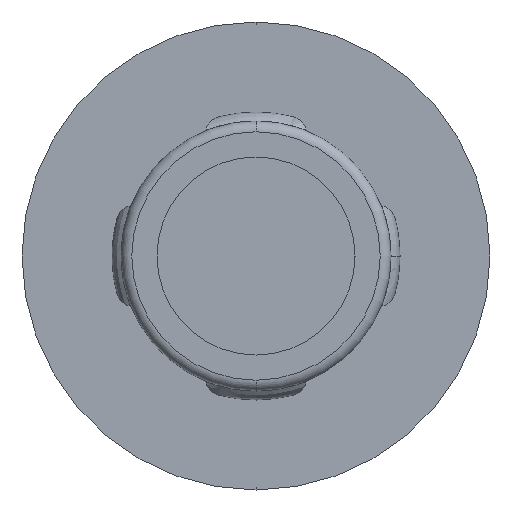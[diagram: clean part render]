
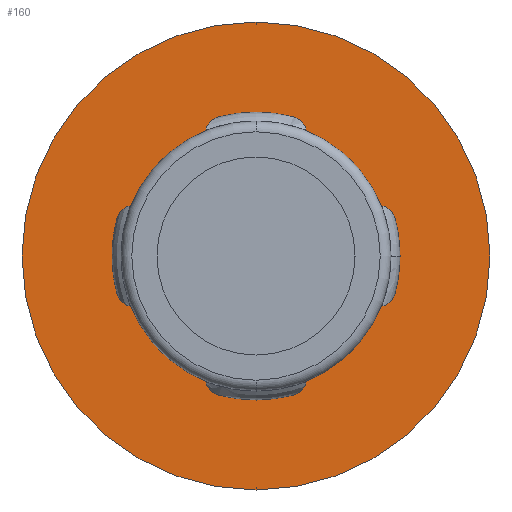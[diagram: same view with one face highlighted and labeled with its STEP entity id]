
A CAD part, front view. The second image highlights one B-rep face of the part: STEP entity #160.
In plain terms, the highlighted planar face has unit normal (0, -1, 0).
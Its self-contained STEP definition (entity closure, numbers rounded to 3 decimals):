
#1 = AXIS2_PLACEMENT_3D ( 'NONE', #911, #125, #124 ) ;
#13 = ORIENTED_EDGE ( 'NONE', *, *, #708, .T. ) ;
#20 = CARTESIAN_POINT ( 'NONE',  ( 0., 5.8, 6.5 ) ) ;
#81 = VERTEX_POINT ( 'NONE', #20 ) ;
#86 = DIRECTION ( 'NONE',  ( 0., 1., 0. ) ) ;
#107 = PLANE ( 'NONE',  #177 ) ;
#124 = DIRECTION ( 'NONE',  ( 0., 0., 1. ) ) ;
#125 = DIRECTION ( 'NONE',  ( 0., -1., 0. ) ) ;
#160 = ADVANCED_FACE ( 'NONE', ( #882, #455 ), #107, .F. ) ;
#177 = AXIS2_PLACEMENT_3D ( 'NONE', #827, #86, #618 ) ;
#206 = ORIENTED_EDGE ( 'NONE', *, *, #326, .F. ) ;
#293 = CIRCLE ( 'NONE', #1, 3.75 ) ;
#323 = VERTEX_POINT ( 'NONE', #869 ) ;
#326 = EDGE_CURVE ( 'NONE', #578, #1037, #293, .T. ) ;
#398 = EDGE_LOOP ( 'NONE', ( #856, #206 ) ) ;
#420 = CIRCLE ( 'NONE', #619, 3.75 ) ;
#455 = FACE_OUTER_BOUND ( 'NONE', #625, .T. ) ;
#474 = EDGE_CURVE ( 'NONE', #81, #323, #498, .T. ) ;
#498 = CIRCLE ( 'NONE', #741, 6.5 ) ;
#573 = DIRECTION ( 'NONE',  ( 0., 0., 1. ) ) ;
#578 = VERTEX_POINT ( 'NONE', #700 ) ;
#600 = CARTESIAN_POINT ( 'NONE',  ( 0., 5.8, 0. ) ) ;
#618 = DIRECTION ( 'NONE',  ( 0., 0., -1. ) ) ;
#619 = AXIS2_PLACEMENT_3D ( 'NONE', #600, #670, #637 ) ;
#625 = EDGE_LOOP ( 'NONE', ( #13, #767 ) ) ;
#637 = DIRECTION ( 'NONE',  ( 0., 0., 1. ) ) ;
#670 = DIRECTION ( 'NONE',  ( 0., -1., 0. ) ) ;
#676 = DIRECTION ( 'NONE',  ( 0., 0., 1. ) ) ;
#700 = CARTESIAN_POINT ( 'NONE',  ( 0., 5.8, -3.75 ) ) ;
#708 = EDGE_CURVE ( 'NONE', #323, #81, #1014, .T. ) ;
#741 = AXIS2_PLACEMENT_3D ( 'NONE', #1086, #1009, #676 ) ;
#760 = DIRECTION ( 'NONE',  ( 0., -1., 0. ) ) ;
#767 = ORIENTED_EDGE ( 'NONE', *, *, #474, .T. ) ;
#827 = CARTESIAN_POINT ( 'NONE',  ( 0., 5.8, -3.75 ) ) ;
#856 = ORIENTED_EDGE ( 'NONE', *, *, #962, .F. ) ;
#869 = CARTESIAN_POINT ( 'NONE',  ( 0., 5.8, -6.5 ) ) ;
#882 = FACE_BOUND ( 'NONE', #398, .T. ) ;
#911 = CARTESIAN_POINT ( 'NONE',  ( 0., 5.8, 0. ) ) ;
#930 = CARTESIAN_POINT ( 'NONE',  ( 0., 5.8, 3.75 ) ) ;
#962 = EDGE_CURVE ( 'NONE', #1037, #578, #420, .T. ) ;
#1009 = DIRECTION ( 'NONE',  ( 0., -1., 0. ) ) ;
#1014 = CIRCLE ( 'NONE', #1129, 6.5 ) ;
#1037 = VERTEX_POINT ( 'NONE', #930 ) ;
#1086 = CARTESIAN_POINT ( 'NONE',  ( 0., 5.8, 0. ) ) ;
#1098 = CARTESIAN_POINT ( 'NONE',  ( 0., 5.8, 0. ) ) ;
#1129 = AXIS2_PLACEMENT_3D ( 'NONE', #1098, #760, #573 ) ;
